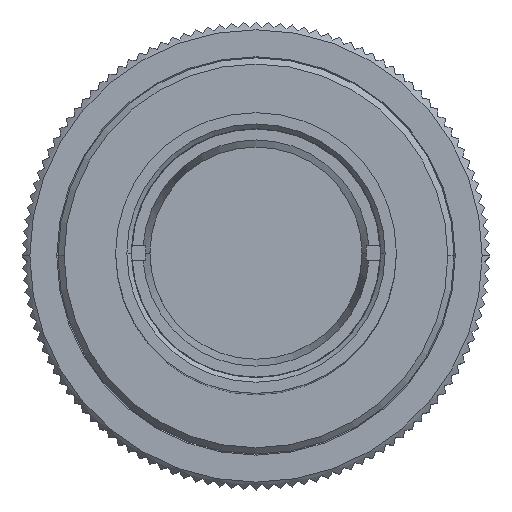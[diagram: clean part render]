
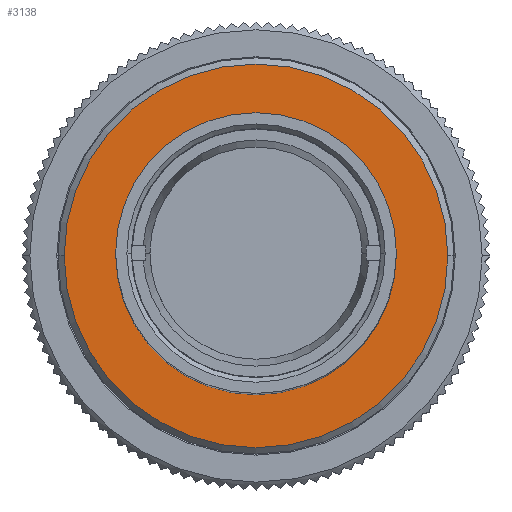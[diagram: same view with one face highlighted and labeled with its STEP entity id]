
A CAD part, top view. The second image highlights one B-rep face of the part: STEP entity #3138.
In plain terms, the highlighted planar face has unit normal (0, 0, 1).
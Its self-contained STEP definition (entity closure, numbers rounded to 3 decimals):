
#183 = CARTESIAN_POINT ( 'NONE',  ( -8., 0., -35.34 ) ) ;
#363 = CARTESIAN_POINT ( 'NONE',  ( -12.3, 0., -35.34 ) ) ;
#407 = DIRECTION ( 'NONE',  ( -1., 0., 0. ) ) ;
#408 = DIRECTION ( 'NONE',  ( 0., 0., 1. ) ) ;
#409 = CARTESIAN_POINT ( 'NONE',  ( 0., 0., -35.34 ) ) ;
#410 = AXIS2_PLACEMENT_3D ( 'NONE', #409, #408, #407 ) ;
#420 = CARTESIAN_POINT ( 'NONE',  ( 12.3, 0., -35.34 ) ) ;
#433 = CIRCLE ( 'NONE', #410, 12.3 ) ;
#1437 = CARTESIAN_POINT ( 'NONE',  ( 0., 0., -35.34 ) ) ;
#1438 = AXIS2_PLACEMENT_3D ( 'NONE', #1437, #1461, #1460 ) ;
#1459 = CIRCLE ( 'NONE', #1438, 12.3 ) ;
#1460 = DIRECTION ( 'NONE',  ( -1., 0., 0. ) ) ;
#1461 = DIRECTION ( 'NONE',  ( 0., 0., 1. ) ) ;
#1565 = DIRECTION ( 'NONE',  ( -1., 0., 0. ) ) ;
#1569 = FACE_BOUND ( 'NONE', #3135, .T. ) ;
#1588 = FACE_OUTER_BOUND ( 'NONE', #3112, .T. ) ;
#1599 = AXIS2_PLACEMENT_3D ( 'NONE', #1604, #1603, #1565 ) ;
#1603 = DIRECTION ( 'NONE',  ( 0., 0., -1. ) ) ;
#1604 = CARTESIAN_POINT ( 'NONE',  ( 0., 8., -35.34 ) ) ;
#1609 = PLANE ( 'NONE',  #1599 ) ;
#1992 = CARTESIAN_POINT ( 'NONE',  ( 0., 0., -35.34 ) ) ;
#2006 = CIRCLE ( 'NONE', #2007, 8. ) ;
#2007 = AXIS2_PLACEMENT_3D ( 'NONE', #1992, #2037, #2038 ) ;
#2037 = DIRECTION ( 'NONE',  ( 0., 0., 1. ) ) ;
#2038 = DIRECTION ( 'NONE',  ( 1., 0., 0. ) ) ;
#2304 = CARTESIAN_POINT ( 'NONE',  ( 8., 0., -35.34 ) ) ;
#3072 = EDGE_CURVE ( 'NONE', #3405, #3402, #1459, .T. ) ;
#3112 = EDGE_LOOP ( 'NONE', ( #3137, #3136 ) ) ;
#3114 = ORIENTED_EDGE ( 'NONE', *, *, #3262, .F. ) ;
#3135 = EDGE_LOOP ( 'NONE', ( #3114, #3150 ) ) ;
#3136 = ORIENTED_EDGE ( 'NONE', *, *, #3401, .T. ) ;
#3137 = ORIENTED_EDGE ( 'NONE', *, *, #3072, .T. ) ;
#3138 = ADVANCED_FACE ( 'NONE', ( #1588, #1569 ), #1609, .F. ) ;
#3150 = ORIENTED_EDGE ( 'NONE', *, *, #10304, .F. ) ;
#3262 = EDGE_CURVE ( 'NONE', #3279, #3310, #2006, .T. ) ;
#3279 = VERTEX_POINT ( 'NONE', #2304 ) ;
#3310 = VERTEX_POINT ( 'NONE', #183 ) ;
#3401 = EDGE_CURVE ( 'NONE', #3402, #3405, #433, .T. ) ;
#3402 = VERTEX_POINT ( 'NONE', #420 ) ;
#3405 = VERTEX_POINT ( 'NONE', #363 ) ;
#6566 = CIRCLE ( 'NONE', #6607, 8. ) ;
#6574 = DIRECTION ( 'NONE',  ( 1., 0., 0. ) ) ;
#6580 = CARTESIAN_POINT ( 'NONE',  ( 0., 0., -35.34 ) ) ;
#6607 = AXIS2_PLACEMENT_3D ( 'NONE', #6580, #6621, #6574 ) ;
#6621 = DIRECTION ( 'NONE',  ( 0., 0., 1. ) ) ;
#10304 = EDGE_CURVE ( 'NONE', #3310, #3279, #6566, .T. ) ;
